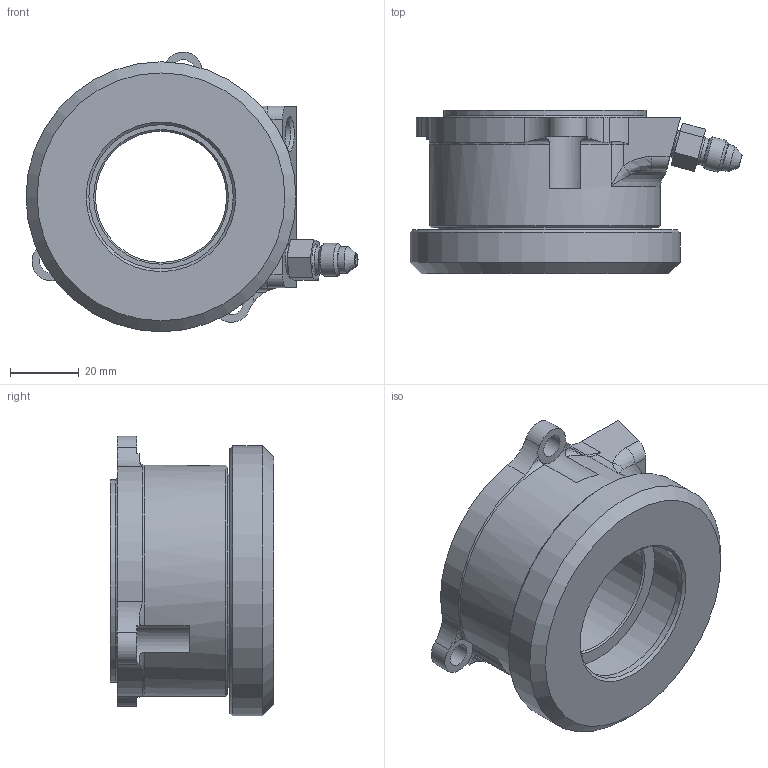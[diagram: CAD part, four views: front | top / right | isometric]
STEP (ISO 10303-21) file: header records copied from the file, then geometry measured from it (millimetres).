
FILE_DESCRIPTION(/* description */ ('Unknown'),/* implementation_level */ '2;1');
FILE_NAME(/* name */ '60-0100',/* time_stamp */ '2025-01-28T10:12:17-08:00',/* author */ ('Unknown'),/* organization */ ('Unknown'),/* preprocessor_version */ 'ST-DEVELOPER v18.104',/* originating_system */ 'Solid Edge',/* authorisation */ 'Unknown');
FILE_SCHEMA (('AUTOMOTIVE_DESIGN {1 0 10303 214 3 1 1}'));
Length unit declared in the file: millimetre
Products named in the file (1): 60-0100
Bounding box: 96.4 x 47.42 x 81.21 mm (x, y, z)
Volume: 123373.2 mm3; surface area: 28592.6 mm2
Topology: 1 solids, 1 shells, 201 faces, 487 edges, 317 vertices
Faces by surface type: plane 96, cylinder 55, bspline 19, cone 17, torus 14
Full cylindrical faces by diameter (mm): 3.175 x3, 6.756 x3, 7.734 x1, 7.925 x2, 8.379 x2, 9.525 x1, 38.1 x1, 41.91 x1, 46.761 x1, 58.9 x1, 61.925 x1, 62.408 x1, 67.056 x1, 72.974 x1, 73 x1, 78.41 x1
Entity records: 8367 total; most frequent: CARTESIAN_POINT 2595, DIRECTION 857, ORIENTED_EDGE 834, EDGE_CURVE 417, AXIS2_PLACEMENT_3D 339, VERTEX_POINT 302, EDGE_LOOP 293, FACE_BOUND 293
